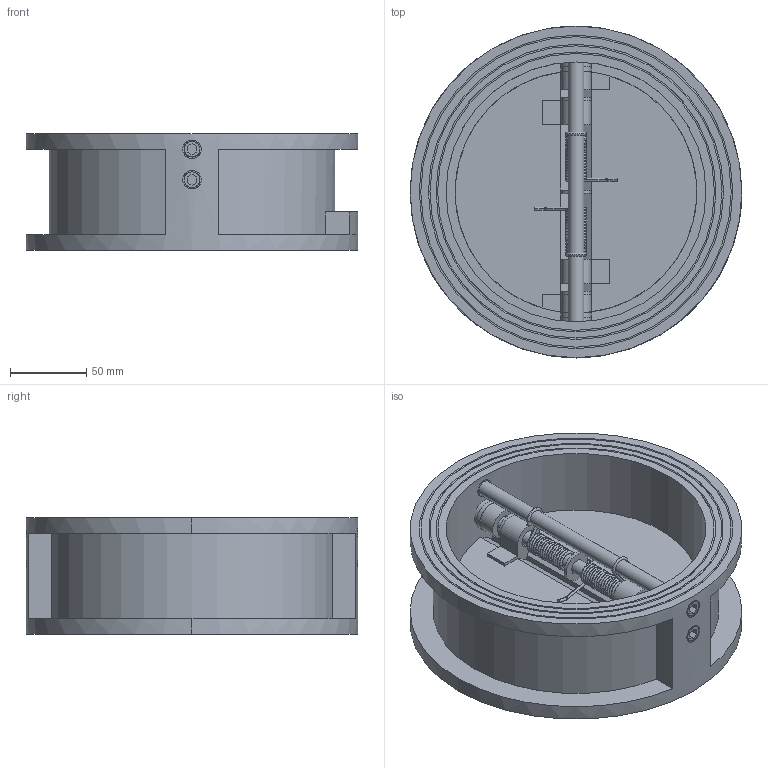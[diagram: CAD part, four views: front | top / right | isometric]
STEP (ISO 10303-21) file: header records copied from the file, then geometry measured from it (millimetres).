
FILE_DESCRIPTION((''),'2;1');
FILE_NAME('CV-16WS_SB_ASM','2026-03-24T',('user'),(''),'PRO/ENGINEER BY PARAMETRIC TECHNOLOGY CORPORATION, 2011220','PRO/ENGINEER BY PARAMETRIC TECHNOLOGY CORPORATION, 2011220','');
FILE_SCHEMA(('CONFIG_CONTROL_DESIGN'));
Length unit declared in the file: millimetre
Products named in the file (11): CV-16WS_KORPUS; CV-16WS_DET_2; CV-16WS_DET_3; CV-16WS_DET_4_SHTOK; CV-16WS_DET_5; CV-16WS_DET_6; CV-16WS_DET_7; CV-16WS_DET_8; CV-16WS_DET_9; CV-16WS_DET_10; CV-16WS_SB_ASM
Assembly tree (24 placements, depth 2):
  CV-16WS_SB_ASM
    CV-16WS_KORPUS
    CV-16WS_DET_2  x2
    CV-16WS_DET_3  x2
    CV-16WS_DET_4_SHTOK  x2
    CV-16WS_DET_5  x4
    CV-16WS_DET_6  x2
    CV-16WS_DET_7  x4
    CV-16WS_DET_8  x4
    CV-16WS_DET_9  x2
    CV-16WS_DET_10
Bounding box: 217 x 217 x 76 mm (x, y, z)
Volume: 1034914.6 mm3; surface area: 269534.7 mm2
Topology: 24 solids, 32 shells, 329 faces, 764 edges, 498 vertices
Faces by surface type: plane 147, cylinder 130, torus 26, bspline 16, cone 6, revolution 4
Entity records: 13289 total; most frequent: CARTESIAN_POINT 8437, DIRECTION 1007, ORIENTED_EDGE 886, EDGE_CURVE 461, AXIS2_PLACEMENT_3D 404, VERTEX_POINT 303, EDGE_LOOP 232, VECTOR 197
